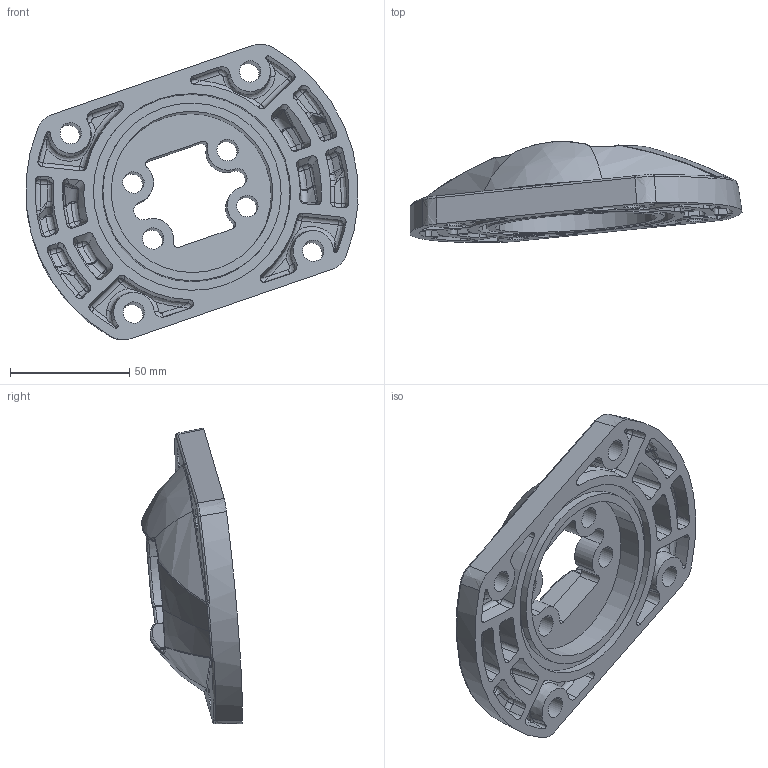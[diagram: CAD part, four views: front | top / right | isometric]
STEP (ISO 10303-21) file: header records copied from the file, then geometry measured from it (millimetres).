
FILE_DESCRIPTION (( 'STEP AP203' ), '1' );
FILE_NAME ('50-65-5040.STEP', '2019-10-03T05:24:52', ( 'User' ), ( 'Microsoft' ), 'SwSTEP 2.0', 'SolidWorks 2017', '' );
FILE_SCHEMA (( 'CONFIG_CONTROL_DESIGN' ));
Length unit declared in the file: millimetre
Products named in the file (2): 50-嘐隅菁釱; 50-65-5040
Assembly tree (1 placements, depth 2):
  50-65-5040
    50-嘐隅菁釱
Bounding box: 139.37 x 42.29 x 124.18 mm (x, y, z)
Volume: 150941.8 mm3; surface area: 46628.4 mm2
Topology: 1 solids, 1 shells, 523 faces, 1288 edges, 756 vertices
Faces by surface type: bspline 340, cylinder 87, plane 62, cone 34
Entity records: 41522 total; most frequent: CARTESIAN_POINT 31652, ORIENTED_EDGE 2522, EDGE_CURVE 1261, DIRECTION 1173, VERTEX_POINT 756, B_SPLINE_CURVE_WITH_KNOTS 749, EDGE_LOOP 557, ADVANCED_FACE 523
